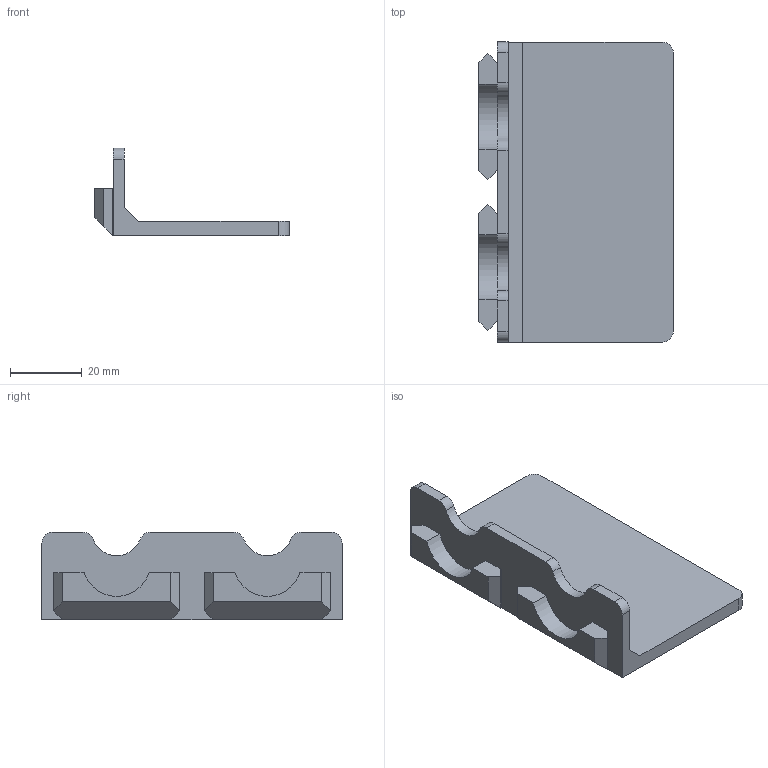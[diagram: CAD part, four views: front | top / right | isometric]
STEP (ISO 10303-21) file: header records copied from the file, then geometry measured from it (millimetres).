
FILE_DESCRIPTION(/* description */ ('','CAx-IF Rec.Pracs.---Representation and Presentation of Product Manufacturing Information (PMI)---4.0---2014-10-13'),/* implementation_level */ '2;1');
FILE_NAME(/* name */ 'Goews 2x Hanger Shelf 1x.step',/* time_stamp */ '2024-11-28T10:17:40-05:00',/* author */ (''),/* organization */ (''),/* preprocessor_version */ 'ST-DEVELOPER v20',/* originating_system */ 'Autodesk Translation Framework v13.20.0.188',/* authorisation */ '');
FILE_SCHEMA (('AP242_MANAGED_MODEL_BASED_3D_ENGINEERING_MIM_LF { 1 0 10303 442 1 1 4 }'));
Length unit declared in the file: millimetre
Products named in the file (1): Goews 2x Hanger Shelf
Bounding box: 54.15 x 83.6 x 24.39 mm (x, y, z)
Volume: 24397 mm3; surface area: 13191.1 mm2
Topology: 1 solids, 1 shells, 45 faces, 119 edges, 78 vertices
Faces by surface type: plane 33, cylinder 12
Entity records: 1418 total; most frequent: CARTESIAN_POINT 243, ORIENTED_EDGE 238, DIRECTION 235, EDGE_CURVE 119, LINE 95, VECTOR 95, VERTEX_POINT 78, AXIS2_PLACEMENT_3D 70
